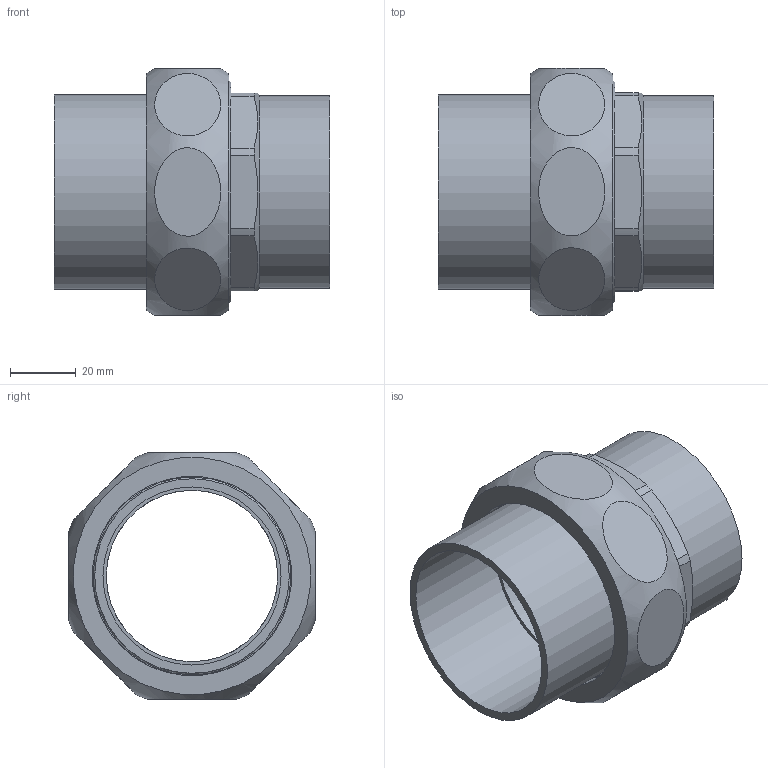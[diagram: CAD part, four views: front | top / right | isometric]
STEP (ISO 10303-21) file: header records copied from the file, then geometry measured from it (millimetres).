
FILE_DESCRIPTION((''),'2;1');
FILE_NAME('\\lg50001\SANHA_Legnica\Engineering\Public\RYSUNKI\SANHA POLSKA\4340\inventor\14340_54(1).stp','2014-08-25T13:26:27',('gomulka'),(''),'Autodesk Inventor 2009','Autodesk Inventor 2009','');
FILE_SCHEMA(('AUTOMOTIVE_DESIGN { 1 0 10303 214 1 1 1 1 }'));
Length unit declared in the file: millimetre
Products named in the file (4): 14340_54(1); 14380_54-238(2); 14381_54-238(2); 14374_238(0)
Assembly tree (3 placements, depth 2):
  14340_54(1)
    14380_54-238(2)
    14381_54-238(2)
    14374_238(0)
Bounding box: 83.61 x 74.85 x 74.85 mm (x, y, z)
Volume: 85558.2 mm3; surface area: 49518.1 mm2
Topology: 3 solids, 3 shells, 55 faces, 115 edges, 79 vertices
Faces by surface type: plane 28, cylinder 19, cone 5, bspline 2, torus 1
Full cylindrical faces by diameter (mm): 52 x2, 54 x2, 58.5 x1, 59 x1, 60.5 x1, 64.5 x1, 65.5 x1, 66.44 x1, 69.398 x1
Entity records: 2959 total; most frequent: CARTESIAN_POINT 1752, DIRECTION 236, ORIENTED_EDGE 188, AXIS2_PLACEMENT_3D 106, EDGE_CURVE 94, EDGE_LOOP 94, VERTEX_POINT 78, FACE_OUTER_BOUND 55
